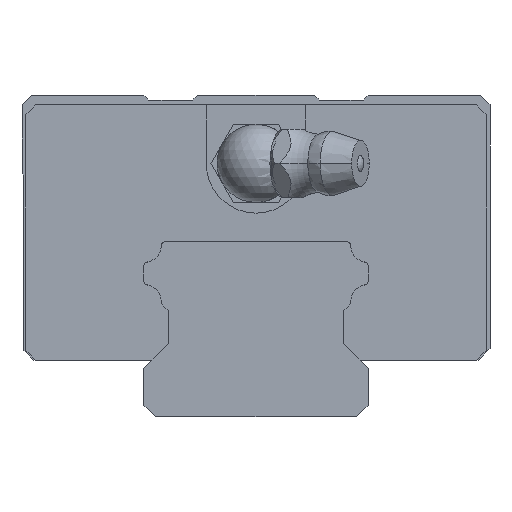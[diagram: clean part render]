
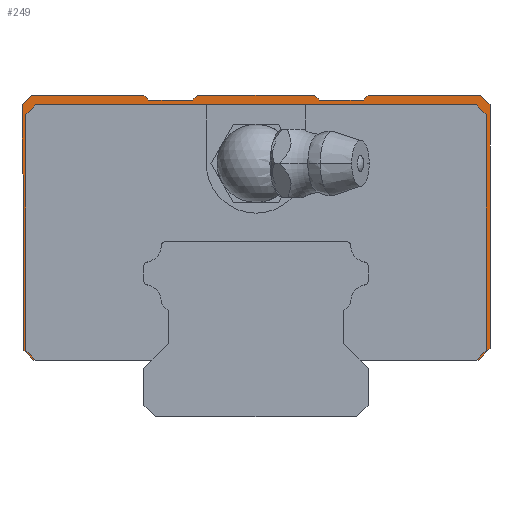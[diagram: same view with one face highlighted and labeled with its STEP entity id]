
A CAD part, front view. The second image highlights one B-rep face of the part: STEP entity #249.
In plain terms, the highlighted planar face has unit normal (0, -1, 0).
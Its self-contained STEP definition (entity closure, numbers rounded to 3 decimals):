
#249=ADVANCED_FACE('',(#556),#557,.F.);
#556=FACE_OUTER_BOUND('',#1016,.T.);
#557=PLANE('',#1017);
#1016=EDGE_LOOP('',(#2015,#2016,#2017,#2018,#2019,#2020,#2021,#2022,#2023,#2024,#2025,#2026,#2027,#2028,#2029,#2030,#2031,#2032,#2033,#2034,#2035,#2036,#2037,#2038,#2039,#2040));
#1017=AXIS2_PLACEMENT_3D('',#2041,#2042,#2043);
#2015=ORIENTED_EDGE('',*,*,#3511,.F.);
#2016=ORIENTED_EDGE('',*,*,#3512,.F.);
#2017=ORIENTED_EDGE('',*,*,#3513,.F.);
#2018=ORIENTED_EDGE('',*,*,#3514,.F.);
#2019=ORIENTED_EDGE('',*,*,#3515,.F.);
#2020=ORIENTED_EDGE('',*,*,#3516,.F.);
#2021=ORIENTED_EDGE('',*,*,#3517,.F.);
#2022=ORIENTED_EDGE('',*,*,#3518,.T.);
#2023=ORIENTED_EDGE('',*,*,#3519,.T.);
#2024=ORIENTED_EDGE('',*,*,#3520,.T.);
#2025=ORIENTED_EDGE('',*,*,#3521,.T.);
#2026=ORIENTED_EDGE('',*,*,#3522,.T.);
#2027=ORIENTED_EDGE('',*,*,#3523,.T.);
#2028=ORIENTED_EDGE('',*,*,#3524,.T.);
#2029=ORIENTED_EDGE('',*,*,#3525,.T.);
#2030=ORIENTED_EDGE('',*,*,#3526,.T.);
#2031=ORIENTED_EDGE('',*,*,#3527,.T.);
#2032=ORIENTED_EDGE('',*,*,#3528,.T.);
#2033=ORIENTED_EDGE('',*,*,#3529,.T.);
#2034=ORIENTED_EDGE('',*,*,#3530,.T.);
#2035=ORIENTED_EDGE('',*,*,#3531,.T.);
#2036=ORIENTED_EDGE('',*,*,#3532,.T.);
#2037=ORIENTED_EDGE('',*,*,#3533,.T.);
#2038=ORIENTED_EDGE('',*,*,#3534,.T.);
#2039=ORIENTED_EDGE('',*,*,#3535,.T.);
#2040=ORIENTED_EDGE('',*,*,#3536,.T.);
#2041=CARTESIAN_POINT('',(24.0,0.,33.0));
#2042=DIRECTION('',(0.,1.0,0.));
#2043=DIRECTION('',(1.0,0.0,0.));
#3511=EDGE_CURVE('',#4563,#4564,#4565,.T.);
#3512=EDGE_CURVE('',#4566,#4563,#4567,.T.);
#3513=EDGE_CURVE('',#4568,#4566,#4569,.T.);
#3514=EDGE_CURVE('',#4570,#4568,#4571,.T.);
#3515=EDGE_CURVE('',#4572,#4570,#4573,.T.);
#3516=EDGE_CURVE('',#4574,#4572,#4575,.T.);
#3517=EDGE_CURVE('',#4576,#4574,#4577,.T.);
#3518=EDGE_CURVE('',#4576,#4578,#4579,.T.);
#3519=EDGE_CURVE('',#4578,#4580,#4581,.T.);
#3520=EDGE_CURVE('',#4580,#4582,#4583,.T.);
#3521=EDGE_CURVE('',#4582,#4584,#4585,.T.);
#3522=EDGE_CURVE('',#4584,#4586,#4587,.T.);
#3523=EDGE_CURVE('',#4586,#4588,#4589,.T.);
#3524=EDGE_CURVE('',#4588,#4590,#4591,.T.);
#3525=EDGE_CURVE('',#4590,#4592,#4593,.T.);
#3526=EDGE_CURVE('',#4592,#4594,#4595,.T.);
#3527=EDGE_CURVE('',#4594,#4596,#4597,.T.);
#3528=EDGE_CURVE('',#4596,#4598,#4599,.T.);
#3529=EDGE_CURVE('',#4598,#4600,#4601,.T.);
#3530=EDGE_CURVE('',#4600,#4602,#4603,.T.);
#3531=EDGE_CURVE('',#4602,#4604,#4605,.T.);
#3532=EDGE_CURVE('',#4604,#4606,#4607,.T.);
#3533=EDGE_CURVE('',#4606,#4608,#4609,.T.);
#3534=EDGE_CURVE('',#4608,#4610,#4611,.T.);
#3535=EDGE_CURVE('',#4610,#4612,#4613,.T.);
#3536=EDGE_CURVE('',#4612,#4564,#4614,.T.);
#4563=VERTEX_POINT('',#5993);
#4564=VERTEX_POINT('',#5994);
#4565=LINE('',#5995,#5996);
#4566=VERTEX_POINT('',#5997);
#4567=LINE('',#5998,#5999);
#4568=VERTEX_POINT('',#6000);
#4569=LINE('',#6001,#6002);
#4570=VERTEX_POINT('',#6003);
#4571=LINE('',#6004,#6005);
#4572=VERTEX_POINT('',#6006);
#4573=LINE('',#6007,#6008);
#4574=VERTEX_POINT('',#6009);
#4575=LINE('',#6010,#6011);
#4576=VERTEX_POINT('',#6012);
#4577=LINE('',#6013,#6014);
#4578=VERTEX_POINT('',#6015);
#4579=LINE('',#6016,#6017);
#4580=VERTEX_POINT('',#6018);
#4581=LINE('',#6019,#6020);
#4582=VERTEX_POINT('',#6021);
#4583=LINE('',#6022,#6023);
#4584=VERTEX_POINT('',#6024);
#4585=LINE('',#6025,#6026);
#4586=VERTEX_POINT('',#6027);
#4587=LINE('',#6028,#6029);
#4588=VERTEX_POINT('',#6030);
#4589=LINE('',#6031,#6032);
#4590=VERTEX_POINT('',#6033);
#4591=LINE('',#6034,#6035);
#4592=VERTEX_POINT('',#6036);
#4593=LINE('',#6037,#6038);
#4594=VERTEX_POINT('',#6039);
#4595=LINE('',#6040,#6041);
#4596=VERTEX_POINT('',#6042);
#4597=LINE('',#6043,#6044);
#4598=VERTEX_POINT('',#6045);
#4599=LINE('',#6046,#6047);
#4600=VERTEX_POINT('',#6048);
#4601=LINE('',#6049,#6050);
#4602=VERTEX_POINT('',#6051);
#4603=LINE('',#6052,#6053);
#4604=VERTEX_POINT('',#6054);
#4605=LINE('',#6055,#6056);
#4606=VERTEX_POINT('',#6057);
#4607=LINE('',#6058,#6059);
#4608=VERTEX_POINT('',#6060);
#4609=LINE('',#6061,#6062);
#4610=VERTEX_POINT('',#6063);
#4611=LINE('',#6064,#6065);
#4612=VERTEX_POINT('',#6066);
#4613=LINE('',#6067,#6068);
#4614=LINE('',#6069,#6070);
#5993=CARTESIAN_POINT('',(-23.6,0.0,6.8));
#5994=CARTESIAN_POINT('',(-22.6,0.,5.8));
#5995=CARTESIAN_POINT('',(-23.6,0.0,6.8));
#5996=VECTOR('',#7520,1000.0);
#5997=CARTESIAN_POINT('',(-23.6,0.0,31.0));
#5998=CARTESIAN_POINT('',(-23.6,0.0,31.0));
#5999=VECTOR('',#7521,1000.0);
#6000=CARTESIAN_POINT('',(-22.6,0.0,32.0));
#6001=CARTESIAN_POINT('',(-22.6,0.0,32.0));
#6002=VECTOR('',#7522,1000.0);
#6003=CARTESIAN_POINT('',(22.6,0.0,32.0));
#6004=CARTESIAN_POINT('',(22.6,0.0,32.0));
#6005=VECTOR('',#7523,1000.0);
#6006=CARTESIAN_POINT('',(23.6,0.0,31.0));
#6007=CARTESIAN_POINT('',(23.6,0.0,31.0));
#6008=VECTOR('',#7524,1000.0);
#6009=CARTESIAN_POINT('',(23.6,0.0,6.8));
#6010=CARTESIAN_POINT('',(23.6,0.0,6.8));
#6011=VECTOR('',#7525,1000.0);
#6012=CARTESIAN_POINT('',(22.6,0.,5.8));
#6013=CARTESIAN_POINT('',(22.6,0.0,5.8));
#6014=VECTOR('',#7526,1000.0);
#6015=CARTESIAN_POINT('',(22.8,0.,5.8));
#6016=CARTESIAN_POINT('',(-22.8,0.,5.8));
#6017=VECTOR('',#7527,1000.0);
#6018=CARTESIAN_POINT('',(24.0,0.,7.0));
#6019=CARTESIAN_POINT('',(22.8,0.,5.8));
#6020=VECTOR('',#7528,1000.0);
#6021=CARTESIAN_POINT('',(24.0,0.,32.0));
#6022=CARTESIAN_POINT('',(24.0,0.,7.0));
#6023=VECTOR('',#7529,1000.0);
#6024=CARTESIAN_POINT('',(23.0,0.,33.0));
#6025=CARTESIAN_POINT('',(24.0,0.,32.0));
#6026=VECTOR('',#7530,1000.0);
#6027=CARTESIAN_POINT('',(11.5,0.,33.0));
#6028=CARTESIAN_POINT('',(23.0,0.,33.0));
#6029=VECTOR('',#7531,1000.0);
#6030=CARTESIAN_POINT('',(11.0,0.,32.5));
#6031=CARTESIAN_POINT('',(11.5,0.,33.0));
#6032=VECTOR('',#7532,1000.0);
#6033=CARTESIAN_POINT('',(6.5,0.,32.5));
#6034=CARTESIAN_POINT('',(11.0,0.,32.5));
#6035=VECTOR('',#7533,1000.0);
#6036=CARTESIAN_POINT('',(6.0,0.,33.0));
#6037=CARTESIAN_POINT('',(6.5,0.,32.5));
#6038=VECTOR('',#7534,1000.0);
#6039=CARTESIAN_POINT('',(-6.,0.,33.0));
#6040=CARTESIAN_POINT('',(6.0,0.,33.0));
#6041=VECTOR('',#7535,1000.0);
#6042=CARTESIAN_POINT('',(-6.5,0.,32.5));
#6043=CARTESIAN_POINT('',(-6.,0.,33.0));
#6044=VECTOR('',#7536,1000.0);
#6045=CARTESIAN_POINT('',(-11.0,0.,32.5));
#6046=CARTESIAN_POINT('',(-6.5,0.,32.5));
#6047=VECTOR('',#7537,1000.0);
#6048=CARTESIAN_POINT('',(-11.5,0.,33.0));
#6049=CARTESIAN_POINT('',(-11.0,0.,32.5));
#6050=VECTOR('',#7538,1000.0);
#6051=CARTESIAN_POINT('',(-23.0,0.,33.0));
#6052=CARTESIAN_POINT('',(-11.5,0.,33.0));
#6053=VECTOR('',#7539,1000.0);
#6054=CARTESIAN_POINT('',(-24.0,0.,32.0));
#6055=CARTESIAN_POINT('',(-23.0,0.,33.0));
#6056=VECTOR('',#7540,1000.0);
#6057=CARTESIAN_POINT('',(-24.0,0.,25.0));
#6058=CARTESIAN_POINT('',(-24.0,0.,32.0));
#6059=VECTOR('',#7541,1000.0);
#6060=CARTESIAN_POINT('',(-23.8,0.,24.8));
#6061=CARTESIAN_POINT('',(-24.0,0.,25.0));
#6062=VECTOR('',#7542,1000.0);
#6063=CARTESIAN_POINT('',(-23.8,0.,6.8));
#6064=CARTESIAN_POINT('',(-23.8,0.,24.8));
#6065=VECTOR('',#7543,1000.0);
#6066=CARTESIAN_POINT('',(-22.8,0.,5.8));
#6067=CARTESIAN_POINT('',(-23.8,0.,6.8));
#6068=VECTOR('',#7544,1000.0);
#6069=CARTESIAN_POINT('',(-22.8,0.,5.8));
#6070=VECTOR('',#7545,1000.0);
#7520=DIRECTION('',(0.707,0.0,-0.707));
#7521=DIRECTION('',(0.0,0.0,-1.0));
#7522=DIRECTION('',(-0.707,0.0,-0.707));
#7523=DIRECTION('',(-1.0,0.0,0.0));
#7524=DIRECTION('',(-0.707,0.0,0.707));
#7525=DIRECTION('',(0.0,0.0,1.0));
#7526=DIRECTION('',(0.707,0.0,0.707));
#7527=DIRECTION('',(1.0,0.,0.));
#7528=DIRECTION('',(0.707,0.,0.707));
#7529=DIRECTION('',(0.,0.,1.0));
#7530=DIRECTION('',(-0.707,0.,0.707));
#7531=DIRECTION('',(-1.0,0.,0.));
#7532=DIRECTION('',(-0.707,0.,-0.707));
#7533=DIRECTION('',(-1.0,0.,0.));
#7534=DIRECTION('',(-0.707,0.,0.707));
#7535=DIRECTION('',(-1.0,0.,0.));
#7536=DIRECTION('',(-0.707,0.,-0.707));
#7537=DIRECTION('',(-1.0,0.,0.));
#7538=DIRECTION('',(-0.707,0.,0.707));
#7539=DIRECTION('',(-1.0,0.,0.));
#7540=DIRECTION('',(-0.707,0.,-0.707));
#7541=DIRECTION('',(0.,0.,-1.0));
#7542=DIRECTION('',(0.707,0.,-0.707));
#7543=DIRECTION('',(0.,0.,-1.0));
#7544=DIRECTION('',(0.707,0.,-0.707));
#7545=DIRECTION('',(1.0,0.,0.));
